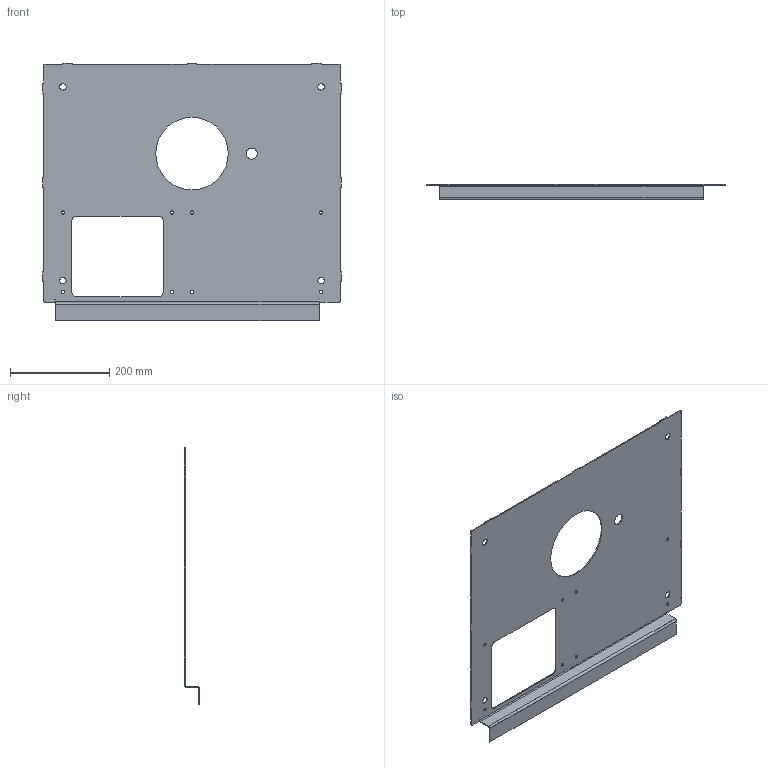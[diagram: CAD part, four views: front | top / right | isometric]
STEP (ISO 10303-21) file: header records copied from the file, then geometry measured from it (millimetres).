
FILE_DESCRIPTION (( 'STEP AP203' ), '1' );
FILE_NAME ('ORW-72.24.10.002 Êðûøêà.STEP', '2025-10-13T13:18:08', ( 'Àíäðåé' ), ( '' ), 'SwSTEP 2.0', 'SolidWorks 2025', '' );
FILE_SCHEMA (( 'CONFIG_CONTROL_DESIGN' ));
Length unit declared in the file: millimetre
Products named in the file (1): ORW-72.24.10.002 Крышка
Bounding box: 600 x 31 x 518.5 mm (x, y, z)
Volume: 544314.2 mm3; surface area: 552033.5 mm2
Topology: 1 solids, 1 shells, 90 faces, 257 edges, 169 vertices
Faces by surface type: plane 66, cylinder 24
Full cylindrical faces by diameter (mm): 6.4 x8, 13 x4, 22.5 x1, 146 x1
Entity records: 2879 total; most frequent: CARTESIAN_POINT 503, ORIENTED_EDGE 468, DIRECTION 446, EDGE_CURVE 234, LINE 168, VECTOR 168, VERTEX_POINT 160, AXIS2_PLACEMENT_3D 139
